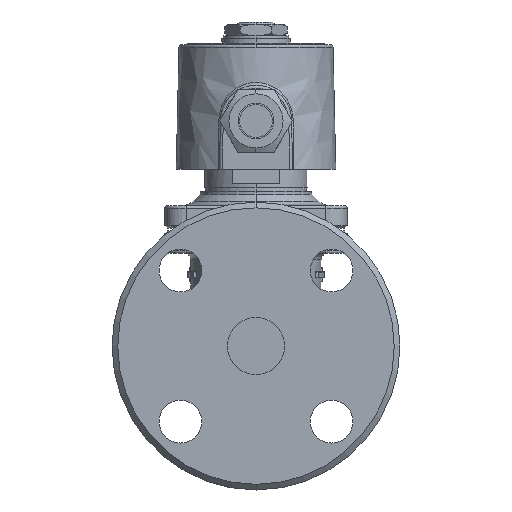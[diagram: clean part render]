
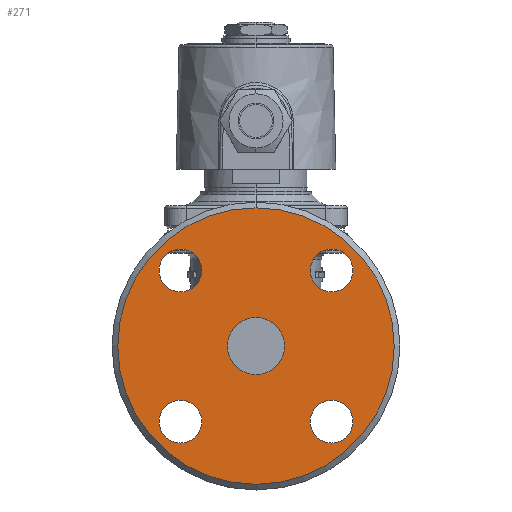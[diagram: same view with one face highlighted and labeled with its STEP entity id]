
A CAD part, left-side view. The second image highlights one B-rep face of the part: STEP entity #271.
In plain terms, the highlighted planar face has unit normal (-1, 0, 0).
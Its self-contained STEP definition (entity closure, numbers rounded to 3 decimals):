
#271=ADVANCED_FACE('',(#1120,#1121,#1122,#1123,#1124,#1125),#1119,.F.);
#1119=PLANE('',#5931);
#1120=FACE_OUTER_BOUND('',#5932,.T.);
#1121=FACE_BOUND('',#5933,.T.);
#1122=FACE_BOUND('',#5934,.T.);
#1123=FACE_BOUND('',#5935,.T.);
#1124=FACE_BOUND('',#5936,.T.);
#1125=FACE_BOUND('',#5937,.T.);
#5928=CARTESIAN_POINT('',(-65.,-94.004,107.));
#5929=DIRECTION('',(1.,0.,0.));
#5930=DIRECTION('',(0.,0.,-1.));
#5931=AXIS2_PLACEMENT_3D('',#5928,#5929,#5930);
#5932=EDGE_LOOP('',(#10348,#10349));
#5933=EDGE_LOOP('',(#10350,#10351));
#5934=EDGE_LOOP('',(#10352,#10353));
#5935=EDGE_LOOP('',(#10354,#10355));
#5936=EDGE_LOOP('',(#10356,#10357));
#5937=EDGE_LOOP('',(#10358,#10359));
#10348=ORIENTED_EDGE('',*,*,#12198,.T.);
#10349=ORIENTED_EDGE('',*,*,#12199,.T.);
#10350=ORIENTED_EDGE('',*,*,#12200,.T.);
#10351=ORIENTED_EDGE('',*,*,#12201,.T.);
#10352=ORIENTED_EDGE('',*,*,#12202,.T.);
#10353=ORIENTED_EDGE('',*,*,#12203,.T.);
#10354=ORIENTED_EDGE('',*,*,#12204,.T.);
#10355=ORIENTED_EDGE('',*,*,#12205,.T.);
#10356=ORIENTED_EDGE('',*,*,#12206,.T.);
#10357=ORIENTED_EDGE('',*,*,#12207,.T.);
#10358=ORIENTED_EDGE('',*,*,#12208,.T.);
#10359=ORIENTED_EDGE('',*,*,#12209,.T.);
#12198=EDGE_CURVE('',#14197,#14198,#14199,.T.);
#12199=EDGE_CURVE('',#14198,#14197,#14205,.T.);
#12200=EDGE_CURVE('',#14211,#14212,#14213,.T.);
#12201=EDGE_CURVE('',#14212,#14211,#14219,.T.);
#12202=EDGE_CURVE('',#14225,#14226,#14227,.T.);
#12203=EDGE_CURVE('',#14226,#14225,#14233,.T.);
#12204=EDGE_CURVE('',#14239,#14240,#14241,.T.);
#12205=EDGE_CURVE('',#14240,#14239,#14247,.T.);
#12206=EDGE_CURVE('',#14253,#14254,#14255,.T.);
#12207=EDGE_CURVE('',#14254,#14253,#14261,.T.);
#12208=EDGE_CURVE('',#14267,#14268,#14269,.T.);
#12209=EDGE_CURVE('',#14268,#14267,#14275,.T.);
#14197=VERTEX_POINT('',#20525);
#14198=VERTEX_POINT('',#20526);
#14199=CIRCLE('',#20530,48.5);
#14205=CIRCLE('',#20534,48.5);
#14211=VERTEX_POINT('',#20535);
#14212=VERTEX_POINT('',#20536);
#14213=CIRCLE('',#20540,10.);
#14219=CIRCLE('',#20544,10.);
#14225=VERTEX_POINT('',#20545);
#14226=VERTEX_POINT('',#20546);
#14227=CIRCLE('',#20550,7.5);
#14233=CIRCLE('',#20554,7.5);
#14239=VERTEX_POINT('',#20555);
#14240=VERTEX_POINT('',#20556);
#14241=CIRCLE('',#20560,7.5);
#14247=CIRCLE('',#20564,7.5);
#14253=VERTEX_POINT('',#20565);
#14254=VERTEX_POINT('',#20566);
#14255=CIRCLE('',#20570,7.5);
#14261=CIRCLE('',#20574,7.5);
#14267=VERTEX_POINT('',#20575);
#14268=VERTEX_POINT('',#20576);
#14269=CIRCLE('',#20580,7.5);
#14275=CIRCLE('',#20584,7.5);
#20525=CARTESIAN_POINT('',(-65.,0.,-48.5));
#20526=CARTESIAN_POINT('',(-65.,0.,48.5));
#20527=CARTESIAN_POINT('',(-65.,0.,0.));
#20528=DIRECTION('',(-1.,0.,0.));
#20529=DIRECTION('',(0.,0.,-1.));
#20530=AXIS2_PLACEMENT_3D('',#20527,#20528,#20529);
#20531=CARTESIAN_POINT('',(-65.,0.,0.));
#20532=DIRECTION('',(-1.,0.,0.));
#20533=DIRECTION('',(0.,0.,-1.));
#20534=AXIS2_PLACEMENT_3D('',#20531,#20532,#20533);
#20535=CARTESIAN_POINT('',(-65.,0.,10.));
#20536=CARTESIAN_POINT('',(-65.,0.,-10.));
#20537=CARTESIAN_POINT('',(-65.,0.,0.));
#20538=DIRECTION('',(1.,0.,0.));
#20539=DIRECTION('',(0.,0.,1.));
#20540=AXIS2_PLACEMENT_3D('',#20537,#20538,#20539);
#20541=CARTESIAN_POINT('',(-65.,0.,0.));
#20542=DIRECTION('',(1.,0.,0.));
#20543=DIRECTION('',(0.,0.,1.));
#20544=AXIS2_PLACEMENT_3D('',#20541,#20542,#20543);
#20545=CARTESIAN_POINT('',(-65.,-26.517,34.017));
#20546=CARTESIAN_POINT('',(-65.,-26.517,19.017));
#20547=CARTESIAN_POINT('',(-65.,-26.517,26.517));
#20548=DIRECTION('',(1.,0.,0.));
#20549=DIRECTION('',(0.,0.,1.));
#20550=AXIS2_PLACEMENT_3D('',#20547,#20548,#20549);
#20551=CARTESIAN_POINT('',(-65.,-26.517,26.517));
#20552=DIRECTION('',(1.,0.,0.));
#20553=DIRECTION('',(0.,0.,1.));
#20554=AXIS2_PLACEMENT_3D('',#20551,#20552,#20553);
#20555=CARTESIAN_POINT('',(-65.,-26.517,-19.017));
#20556=CARTESIAN_POINT('',(-65.,-26.517,-34.017));
#20557=CARTESIAN_POINT('',(-65.,-26.517,-26.517));
#20558=DIRECTION('',(1.,0.,0.));
#20559=DIRECTION('',(0.,0.,1.));
#20560=AXIS2_PLACEMENT_3D('',#20557,#20558,#20559);
#20561=CARTESIAN_POINT('',(-65.,-26.517,-26.517));
#20562=DIRECTION('',(1.,0.,0.));
#20563=DIRECTION('',(0.,0.,1.));
#20564=AXIS2_PLACEMENT_3D('',#20561,#20562,#20563);
#20565=CARTESIAN_POINT('',(-65.,26.517,-19.017));
#20566=CARTESIAN_POINT('',(-65.,26.517,-34.017));
#20567=CARTESIAN_POINT('',(-65.,26.517,-26.517));
#20568=DIRECTION('',(1.,0.,0.));
#20569=DIRECTION('',(0.,0.,1.));
#20570=AXIS2_PLACEMENT_3D('',#20567,#20568,#20569);
#20571=CARTESIAN_POINT('',(-65.,26.517,-26.517));
#20572=DIRECTION('',(1.,0.,0.));
#20573=DIRECTION('',(0.,0.,1.));
#20574=AXIS2_PLACEMENT_3D('',#20571,#20572,#20573);
#20575=CARTESIAN_POINT('',(-65.,26.517,34.017));
#20576=CARTESIAN_POINT('',(-65.,26.517,19.017));
#20577=CARTESIAN_POINT('',(-65.,26.517,26.517));
#20578=DIRECTION('',(1.,0.,0.));
#20579=DIRECTION('',(0.,0.,1.));
#20580=AXIS2_PLACEMENT_3D('',#20577,#20578,#20579);
#20581=CARTESIAN_POINT('',(-65.,26.517,26.517));
#20582=DIRECTION('',(1.,0.,0.));
#20583=DIRECTION('',(0.,0.,1.));
#20584=AXIS2_PLACEMENT_3D('',#20581,#20582,#20583);
